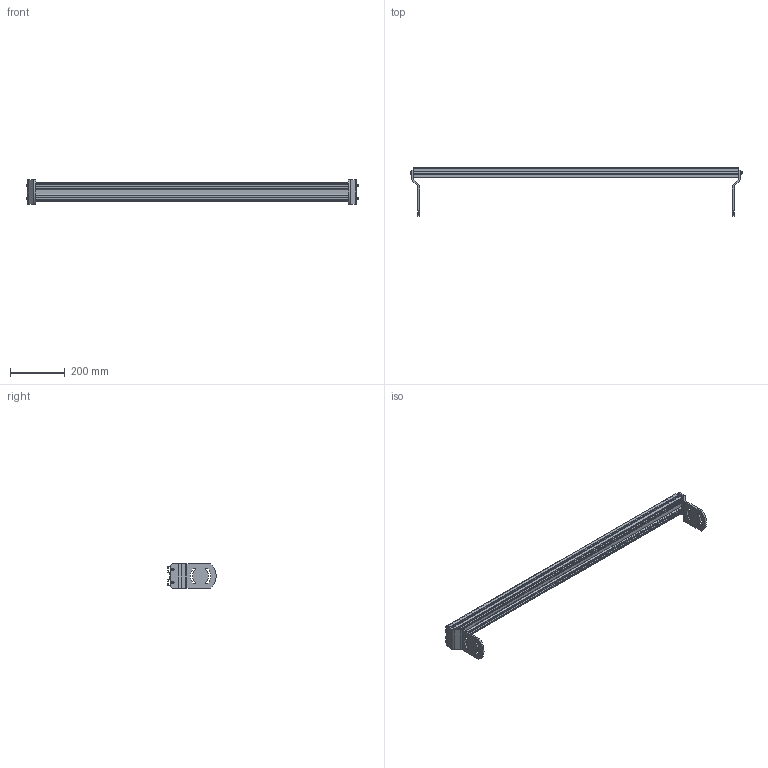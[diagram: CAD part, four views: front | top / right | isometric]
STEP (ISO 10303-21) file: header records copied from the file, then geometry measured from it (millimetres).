
FILE_DESCRIPTION((''),'2;1');
FILE_NAME('39MCM44-2_ASM','2023-03-01T',('jenni.wallner'),(''),'PRO/ENGINEER BY PARAMETRIC TECHNOLOGY CORPORATION, 2012420','PRO/ENGINEER BY PARAMETRIC TECHNOLOGY CORPORATION, 2012420','');
FILE_SCHEMA(('CONFIG_CONTROL_DESIGN'));
Length unit declared in the file: inch
Products named in the file (4): 710210_04679; 300825M; 708180P; 39MCM44-2_ASM
Assembly tree (7 placements, depth 2):
  39MCM44-2_ASM
    710210_04679
    300825M  x2
    708180P  x4
Bounding box: 1213.17 x 176.65 x 88.93 mm (x, y, z)
Volume: 1017950.7 mm3; surface area: 768942 mm2
Topology: 7 solids, 7 shells, 256 faces, 662 edges, 428 vertices
Faces by surface type: plane 144, cylinder 92, cone 20
Entity records: 4895 total; most frequent: CARTESIAN_POINT 859, DIRECTION 825, ORIENTED_EDGE 816, EDGE_CURVE 408, VECTOR 301, LINE 301, VERTEX_POINT 266, AXIS2_PLACEMENT_3D 262
